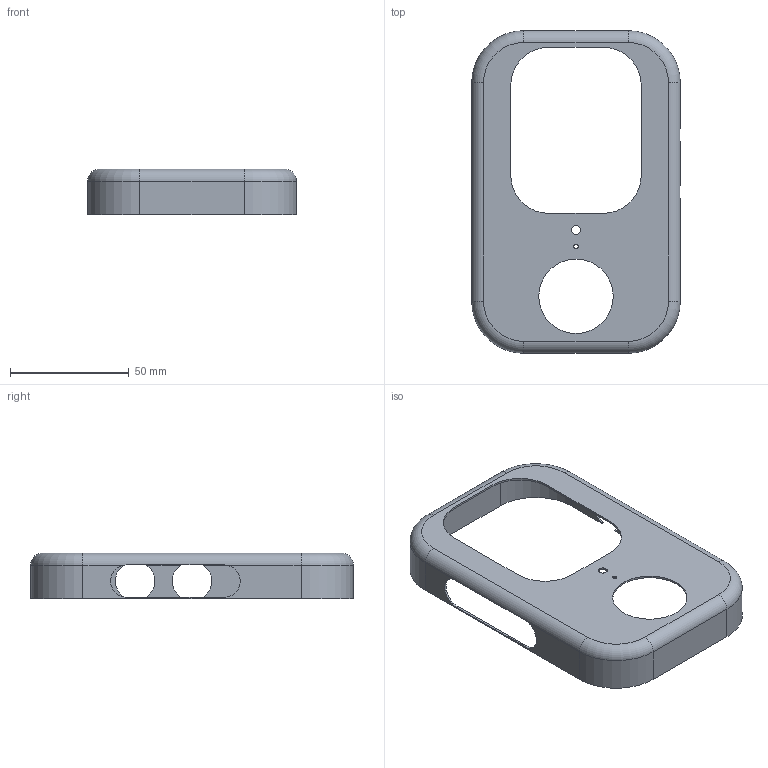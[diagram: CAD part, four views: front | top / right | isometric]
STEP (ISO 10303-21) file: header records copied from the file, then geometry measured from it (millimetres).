
FILE_DESCRIPTION(('Open CASCADE Model'),'2;1');
FILE_NAME('Open CASCADE Shape Model','2026-09-04T20:58:22',('Author'),( 'Open CASCADE'),'Open CASCADE STEP processor 7.7','Open CASCADE 7.7' ,'Unknown');
FILE_SCHEMA(('AUTOMOTIVE_DESIGN { 1 0 10303 214 1 1 1 1 }'));
Length unit declared in the file: millimetre
Products named in the file (1): Open CASCADE STEP translator 7.7 5
Bounding box: 88 x 136 x 19.25 mm (x, y, z)
Volume: 10065.6 mm3; surface area: 25933.5 mm2
Topology: 1 solids, 1 shells, 81 faces, 227 edges, 146 vertices
Faces by surface type: cylinder 39, plane 34, torus 8
Full cylindrical faces by diameter (mm): 1.8 x1, 3.7 x1, 31.4 x1
Entity records: 5822 total; most frequent: CARTESIAN_POINT 1461, DIRECTION 773, ORIENTED_EDGE 454, PCURVE 454, DEFINITIONAL_REPRESENTATION 454, LINE 389, VECTOR 389, EDGE_CURVE 227
